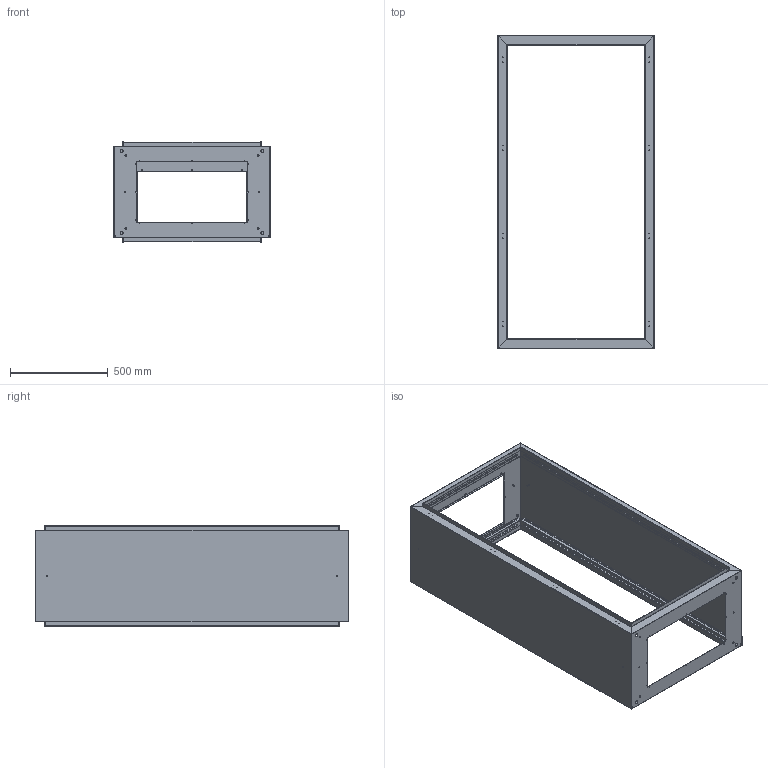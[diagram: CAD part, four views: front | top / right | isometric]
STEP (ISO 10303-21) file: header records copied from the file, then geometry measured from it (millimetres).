
FILE_DESCRIPTION (( 'STEP AP203' ), '1' );
FILE_NAME ('800x1600x500.STEP', '2021-11-11T16:46:35', ( '' ), ( '' ), 'SwSTEP 2.0', 'SolidWorks 2019', '' );
FILE_SCHEMA (( 'CONFIG_CONTROL_DESIGN' ));
Length unit declared in the file: millimetre
Products named in the file (4): Yan Kapak 1,5mm_monoblok_tekkapakrevize_PP 16.1003 - 1600Yx500D YAN; Alt Kapak 1,5mm_monoblok_tekkapakrevize_PP 16.1020 800Gx500D ALT; Üst Kapak 1,5mm_monoblok_tekkapakrevize_PP 16.1011 800Gx500D šST; 800x1600x500
Assembly tree (4 placements, depth 2):
  800x1600x500
    Alt Kapak 1,5mm_monoblok_tekkapakrevize_PP 16.1020 800Gx500D ALT
    Üst Kapak 1,5mm_monoblok_tekkapakrevize_PP 16.1011 800Gx500D šST
    Yan Kapak 1,5mm_monoblok_tekkapakrevize_PP 16.1003 - 1600Yx500D YAN  x2
Bounding box: 800 x 1600 x 511.92 mm (x, y, z)
Volume: 4763988.1 mm3; surface area: 6434326.5 mm2
Topology: 4 solids, 4 shells, 4652 faces, 13668 edges, 9032 vertices
Faces by surface type: plane 3020, cylinder 1616, bspline 16
Entity records: 108266 total; most frequent: CARTESIAN_POINT 18863, ORIENTED_EDGE 18352, DIRECTION 17550, EDGE_CURVE 9176, VECTOR 7008, LINE 7008, VERTEX_POINT 6056, AXIS2_PLACEMENT_3D 5271
